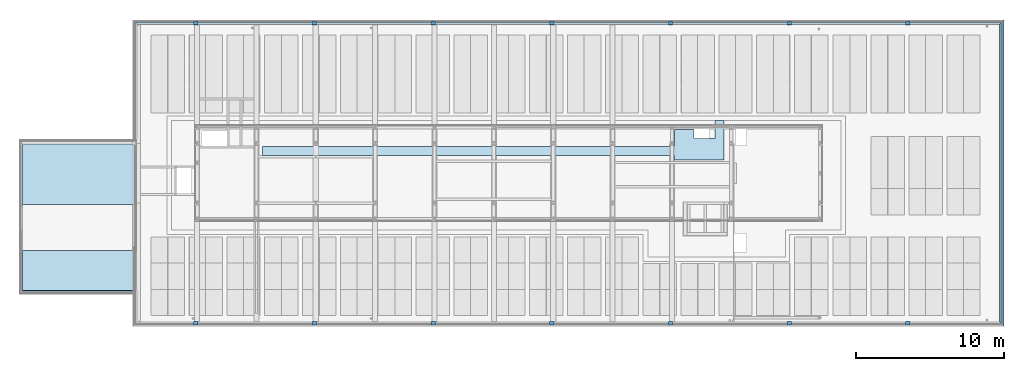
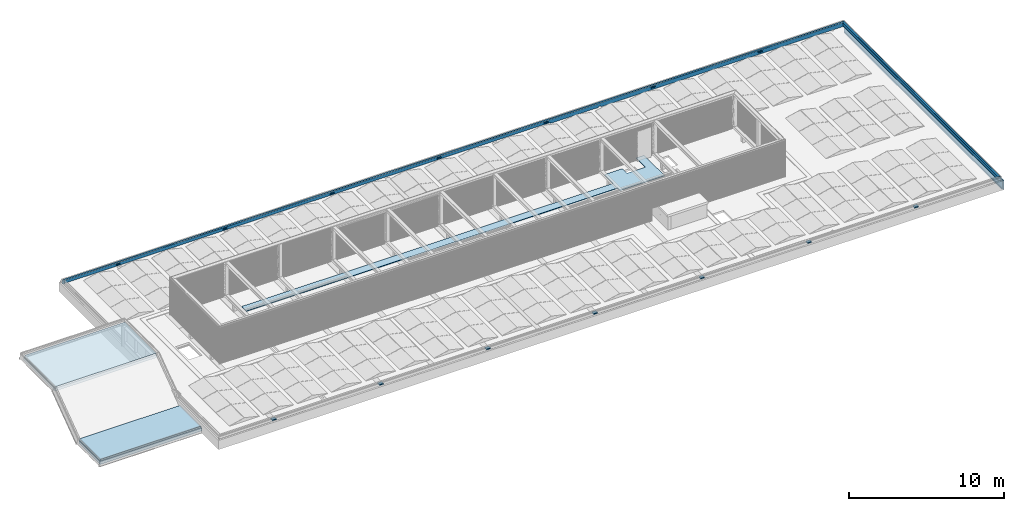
# One storey, part 14 of 63: 18 beams, 5 slabs.
"""IFC2X3 building model written with IfcOpenShell, lengths in millimetres."""

from ifc_helpers import new_model, entity, si_unit, converted_unit, derived_unit, money_unit, direction, frame, origin_with_axes, place, context, subcontext, project, spatial, faceted_brep, material, type_object, element, save


model = new_model("IFC2X3")

# Units and contexts
model_context = context("Model", 3, precision=0.01, world=origin_with_axes(), true_north=direction((0.0, 1.0)))
body_context = subcontext(model_context, "Body", "Model", "MODEL_VIEW")
ifc_project = project(units=[si_unit("LENGTHUNIT", "METRE", prefix="MILLI"), si_unit("AREAUNIT", "SQUARE_METRE"), si_unit("VOLUMEUNIT", "CUBIC_METRE"), converted_unit("PLANEANGLEUNIT", "DEGREE", entity("IfcPlaneAngleMeasure", 0.0174532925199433), si_unit("PLANEANGLEUNIT", "RADIAN"), dimensions=[0, 0, 0, 0, 0, 0, 0]), money_unit("EUR"), converted_unit("TIMEUNIT", "Year", entity("IfcTimeMeasure", 31557600.0), si_unit("TIMEUNIT", "SECOND"), dimensions=[0, 0, 1, 0, 0, 0, 0]), si_unit("MASSUNIT", "GRAM", prefix="KILO"), si_unit("THERMODYNAMICTEMPERATUREUNIT", "DEGREE_CELSIUS"), si_unit("LUMINOUSINTENSITYUNIT", "LUMEN"), si_unit("ENERGYUNIT", "JOULE", prefix="MEGA"), derived_unit("THERMALCONDUCTANCEUNIT", [(si_unit("POWERUNIT", "WATT"), 1), (si_unit("LENGTHUNIT", "METRE"), -1), (si_unit("THERMODYNAMICTEMPERATUREUNIT", "KELVIN"), -1)]), derived_unit("SPECIFICHEATCAPACITYUNIT", [(si_unit("ENERGYUNIT", "JOULE"), 1), (si_unit("MASSUNIT", "GRAM", prefix="KILO"), -1), (si_unit("THERMODYNAMICTEMPERATUREUNIT", "KELVIN"), -1)]), derived_unit("MASSDENSITYUNIT", [(si_unit("MASSUNIT", "GRAM", prefix="KILO"), 1), (si_unit("VOLUMEUNIT", "CUBIC_METRE"), -1)])], contexts=[model_context])

# Site, building, storey
site_placement = place(None, origin_with_axes())
site = spatial("IfcSite", under=ifc_project, at=site_placement, Name="<site naam>", CompositionType="ELEMENT")
building_placement = place(site_placement, origin_with_axes())
building = spatial("IfcBuilding", under=site, at=building_placement, Name="<Naam gebouw>", CompositionType="ELEMENT")
storey_placement = place(building_placement, frame((0.0, 0.0, 12770.0), z_axis=(0.0, 0.0, 1.0), x_axis=(1.0, 0.0, 0.0)))
storey = spatial("IfcBuildingStorey", under=building, at=storey_placement, Name="04 4e verdieping", CompositionType="ELEMENT", Elevation=12770.0)

# Beams
ifc_material_1 = material(Name="beton_gewapend_prefab")
beam_type_1 = type_object("IfcBeamType", Name="Betonbanden 160 x 760", PredefinedType="BEAM")
beam_1_placement = place(storey_placement, frame((70309.99999999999, 20265.00000000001, 50.00000000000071), z_axis=(0.0, 0.0, 1.0), x_axis=(-1.0, 0.0, 0.0)))
element("IfcBeam", 1, at=beam_1_placement, inside=storey, type_object=beam_type_1, material=ifc_material_1, Name="41_Balk_Betonbanden", ObjectType="BEAM", context=body_context, shape_type="Brep", body=[
    faceted_brep([(-59.99999757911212, -59.99999757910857, -759.9999375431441), (-59.99999757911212, -59.99999757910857, -30.00000230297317), (-59.99999757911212, 20589.99999719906, -30.00000230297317), (-59.99999757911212, 20589.99999719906, -759.9999375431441), (60.00000030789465, 60.00000030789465, 0.0), (60.00000030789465, 60.00000030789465, -30.00000230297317), (-29.99999527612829, -29.99999527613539, -759.9999375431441), (-29.99999527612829, -29.99999527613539, -730.0000145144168), (-4.298058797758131e-06, -4.298055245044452e-06, -730.0000145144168), (-4.298058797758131e-06, -4.298055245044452e-06, -759.9999375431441), (60.00000030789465, 60.00000030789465, -759.9999375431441), (60.00000030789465, 60.00000030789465, -660.0000280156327), (29.99999800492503, 29.99999800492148, -660.0000280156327), (29.99999800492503, 29.99999800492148, -690.0000385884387), (-4.298058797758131e-06, -4.298055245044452e-06, -690.0000385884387), (-4.298058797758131e-06, -4.298051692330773e-06, -100.0000001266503), (100.0000071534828, 100.0000071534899, -100.0000001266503), (100.0000071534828, 100.0000071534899, 0.0), (60.00000030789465, 20469.99999931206, -30.00000230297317), (-29.9999952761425, 20559.99999489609, -759.9999375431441), (60.00000030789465, 20469.99999931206, 0.0), (100.0000071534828, 20429.99999246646, 0.0), (100.0000071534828, 20429.99999246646, -100.0000001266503), (-4.298058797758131e-06, 20530.00000391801, -100.0000001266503), (-4.298058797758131e-06, 20530.00000391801, -690.0000385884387), (29.99999800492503, 20500.00000161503, -690.0000385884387), (29.99999800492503, 20500.00000161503, -660.0000280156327), (60.00000030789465, 20469.99999931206, -660.0000280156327), (60.00000030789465, 20469.99999931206, -759.9999375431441), (-4.298058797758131e-06, 20530.00000391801, -759.9999375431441), (-4.298058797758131e-06, 20530.00000391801, -730.0000145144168), (-29.9999952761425, 20559.99999489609, -730.0000145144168)], [[[0, 1, 2, 3]], [[4, 5, 1, 0, 6, 7, 8, 9, 10, 11, 12, 13, 14, 15, 16, 17]], [[1, 5, 18, 2]], [[19, 3, 2, 18, 20, 21, 22, 23, 24, 25, 26, 27, 28, 29, 30, 31]], [[6, 0, 3, 19]], [[5, 4, 20, 18]], [[7, 6, 19, 31]], [[8, 7, 31, 30]], [[9, 8, 30, 29]], [[10, 9, 29, 28]], [[11, 10, 28, 27]], [[12, 11, 27, 26]], [[13, 12, 26, 25]], [[14, 13, 25, 24]], [[15, 14, 24, 23]], [[16, 15, 23, 22]], [[17, 16, 22, 21]], [[4, 17, 21, 20]]]),
])
ifc_material_2 = material(Name="ALG - BUITENAFWERKING")
beam_type_2 = type_object("IfcBeamType", Name="ALG - BUITENAFWERKING 170 x 18", PredefinedType="BEAM")
beam_2_placement = place(storey_placement, frame((70078.19999757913, -33.24878372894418, 241.2498222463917), z_axis=(0.0, 0.0, 1.0), x_axis=(1.0, 0.0, 0.0)))
element("IfcBeam", 2, at=beam_2_placement, inside=storey, type_object=beam_type_2, material=ifc_material_2, Name="47_Balk_ALG", ObjectType="BEAM", context=body_context, shape_type="Brep", body=[
    faceted_brep([(170.0000000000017, 20236.44878130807, 18.00262955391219), (0.0, 20066.44878130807, 18.00262955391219), (0.0, 0.0, 18.00262955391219), (170.0000000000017, -169.9999999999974, 18.00262955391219), (170.0000000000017, 20236.44878130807, 0.0), (0.0, 20066.44878130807, 0.0), (0.0, 0.0, 0.0), (170.0000000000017, -169.9999999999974, 0.0)], [[[0, 1, 2, 3]], [[0, 4, 5, 1]], [[1, 5, 6, 2]], [[3, 2, 6, 7]], [[4, 0, 3, 7]], [[5, 4, 7, 6]]]),
])
beam_type_3 = type_object("IfcBeamType", Name="ALG - BUITENAFWERKING 120 x 329", PredefinedType="BEAM")
beam_3_placement = place(storey_placement, frame((70079.9999975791, -34.99999999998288, -70.00000000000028), z_axis=(0.0, 0.0, 1.0), x_axis=(1.0, 0.0, 0.0)))
element("IfcBeam", 3, at=beam_3_placement, inside=storey, type_object=beam_type_3, material=ifc_material_2, Name="47_Balk_ALG", ObjectType="BEAM", context=body_context, shape_type="Brep", body=[
    faceted_brep([(0.0, 35.00003585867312, 0.0), (23.49994284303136, 35.00003585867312, 0.0), (23.49994284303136, 20035.0, 0.0), (0.0, 20035.0, 0.0), (0.0, 20069.99999999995, 0.0), (120.0000000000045, 20189.99999999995, 0.0), (120.0000000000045, -119.9999999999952, 0.0), (0.0, 0.0, 0.0), (0.0, 35.00003585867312, 70.00000000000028), (23.49994284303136, 35.00003585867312, 70.00000000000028), (23.49994284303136, 20035.0, 70.00000000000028), (0.0, 20035.0, 70.00000000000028), (0.0, 0.0, 311.249822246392), (1.210437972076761e-06, 20069.99999878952, 311.249822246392), (120.0000012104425, 20189.99999878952, 311.249822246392), (120.0000000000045, -119.9999999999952, 311.249822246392)], [[[0, 1, 2, 3, 4, 5, 6, 7]], [[8, 9, 1, 0]], [[10, 2, 1, 9]], [[3, 2, 10, 11]], [[11, 8, 0, 7, 12, 13, 4, 3]], [[14, 5, 4, 13]], [[15, 6, 5, 14]], [[12, 7, 6, 15]], [[11, 10, 9, 8]], [[14, 13, 12, 15]]]),
    faceted_brep([(120.0000000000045, 20189.99999999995, 329.3), (120.0000000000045, -119.9999999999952, 329.3), (120.0000000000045, -119.9999999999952, 329.2524518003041), (120.0000012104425, 20189.99999878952, 329.2524518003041), (0.0, 20069.99999999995, 329.3), (0.0, 0.0, 329.3), (0.0, 0.0, 329.2524518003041), (1.210437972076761e-06, 20069.99999878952, 329.2524518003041)], [[[0, 1, 2, 3]], [[0, 4, 5, 1]], [[1, 5, 6, 2]], [[2, 6, 7, 3]], [[4, 0, 3, 7]], [[5, 4, 7, 6]]]),
])
beam_4_placement = place(storey_placement, frame((70079.9999975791, 20034.99999999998, -70.00000000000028), z_axis=(0.0, 0.0, 1.0), x_axis=(0.0, 1.0, 0.0)))
element("IfcBeam", 4, at=beam_4_placement, inside=storey, type_object=beam_type_3, material=ifc_material_2, Name="47_Balk_ALG", ObjectType="BEAM", context=body_context, shape_type="Brep", body=[
    faceted_brep([(120.000000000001, 21827.99999790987, 70.00000000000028), (120.000000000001, 58144.99999757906, 70.00000000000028), (120.000000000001, 58144.99999757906, 0.0), (120.000000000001, 58269.99999515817, 0.0), (120.000000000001, 58269.99999515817, 311.249822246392), (119.9999987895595, -120.0000012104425, 311.249822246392), (120.000000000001, -120.0000000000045, 0.0), (120.000000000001, 18080.00052321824, 0.0), (120.000000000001, 18080.00052321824, 70.00000000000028), (120.000000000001, 18254.99999757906, 70.00000000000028), (120.000000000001, 18254.99999757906, 0.0), (120.000000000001, 21827.99999790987, 0.0), (120.000000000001, 6329.999997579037, 229.9785226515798), (120.000000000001, 6329.999997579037, 149.9785226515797), (120.000000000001, 6029.99999757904, 149.9785226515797), (120.000000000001, 6029.99999757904, 229.9785226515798), (120.000000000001, 14329.99999757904, 149.9785226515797), (120.000000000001, 14029.99999757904, 149.9785226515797), (120.000000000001, 14029.99999757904, 229.9785226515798), (120.000000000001, 14329.99999757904, 229.9785226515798), (120.000000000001, 22029.99999757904, 149.9785226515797), (120.000000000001, 22029.99999757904, 229.9785226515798), (120.000000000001, 22329.99999757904, 229.9785226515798), (120.000000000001, 22329.99999757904, 149.9785226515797), (119.999998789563, 30029.99999757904, 229.9785226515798), (119.999998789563, 30329.99999757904, 229.9785226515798), (119.999998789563, 30329.99999757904, 149.9785226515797), (119.999998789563, 30029.99999757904, 149.9785226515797), (120.0000000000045, 38329.99999757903, 229.9785226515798), (120.0000000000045, 38329.99999757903, 149.9785226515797), (120.0000000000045, 38029.99999757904, 149.9785226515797), (120.0000000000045, 38029.99999757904, 229.9785226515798), (120.000000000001, 46329.99999757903, 149.9785226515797), (120.000000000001, 46029.99999757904, 149.9785226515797), (120.000000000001, 46029.99999757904, 229.9785226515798), (120.000000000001, 46329.99999757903, 229.9785226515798), (120.000000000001, 54029.99999757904, 149.9785226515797), (120.000000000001, 54029.99999757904, 229.9785226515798), (120.000000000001, 54329.99999757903, 229.9785226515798), (120.000000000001, 54329.99999757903, 149.9785226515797), (0.0, 58144.99999757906, 70.00000000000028), (0.0, 21827.99999790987, 70.00000000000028), (0.0, 58144.99999757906, 0.0), (0.0, 58149.99999515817, 0.0), (0.0, 58149.99999515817, 311.249822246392), (-1.21044152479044e-06, -1.210437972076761e-06, 311.249822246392), (0.0, 0.0, 0.0), (0.0, 18080.00052321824, 0.0), (0.0, 18080.00052321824, 70.00000000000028), (0.0, 18254.99999757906, 70.00000000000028), (0.0, 18254.99999757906, 0.0), (0.0, 21827.99999790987, 0.0), (0.0, 6329.999997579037, 149.9785226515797), (0.0, 6329.999997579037, 229.9785226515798), (0.0, 6029.99999757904, 149.9785226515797), (0.0, 6029.99999757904, 229.9785226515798), (0.0, 14329.99999757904, 149.9785226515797), (0.0, 14029.99999757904, 149.9785226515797), (0.0, 14029.99999757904, 229.9785226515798), (0.0, 14329.99999757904, 229.9785226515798), (0.0, 22029.99999757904, 149.9785226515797), (0.0, 22029.99999757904, 229.9785226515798), (0.0, 22329.99999757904, 229.9785226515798), (0.0, 22329.99999757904, 149.9785226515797), (-1.210437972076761e-06, 30029.99999757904, 229.9785226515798), (-1.210437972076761e-06, 30329.99999757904, 229.9785226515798), (-1.210437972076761e-06, 30329.99999757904, 149.9785226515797), (-1.210437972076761e-06, 30029.99999757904, 149.9785226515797), (0.0, 38329.99999757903, 149.9785226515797), (0.0, 38329.99999757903, 229.9785226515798), (0.0, 38029.99999757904, 149.9785226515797), (0.0, 38029.99999757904, 229.9785226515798), (0.0, 46329.99999757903, 149.9785226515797), (0.0, 46029.99999757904, 149.9785226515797), (0.0, 46029.99999757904, 229.9785226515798), (0.0, 46329.99999757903, 229.9785226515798), (0.0, 54029.99999757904, 149.9785226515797), (0.0, 54029.99999757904, 229.9785226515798), (0.0, 54329.99999757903, 229.9785226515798), (0.0, 54329.99999757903, 149.9785226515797)], [[[0, 1, 2, 3, 4, 5, 6, 7, 8, 9, 10, 11], [12, 13, 14, 15], [16, 17, 18, 19], [20, 21, 22, 23], [24, 25, 26, 27], [28, 29, 30, 31], [32, 33, 34, 35], [36, 37, 38, 39]], [[40, 1, 0, 41]], [[42, 2, 1, 40]], [[3, 2, 42, 43]], [[44, 4, 3, 43]], [[5, 4, 44, 45]], [[45, 46, 6, 5]], [[46, 47, 7, 6]], [[48, 8, 7, 47]], [[49, 9, 8, 48]], [[50, 10, 9, 49]], [[50, 51, 11, 10]], [[41, 0, 11, 51]], [[52, 13, 12, 53]], [[54, 14, 13, 52]], [[55, 15, 14, 54]], [[53, 12, 15, 55]], [[17, 16, 56, 57]], [[18, 17, 57, 58]], [[19, 18, 58, 59]], [[16, 19, 59, 56]], [[20, 60, 61, 21]], [[21, 61, 62, 22]], [[22, 62, 63, 23]], [[23, 63, 60, 20]], [[64, 65, 25, 24]], [[65, 66, 26, 25]], [[66, 67, 27, 26]], [[67, 64, 24, 27]], [[68, 29, 28, 69]], [[70, 30, 29, 68]], [[71, 31, 30, 70]], [[69, 28, 31, 71]], [[33, 32, 72, 73]], [[34, 33, 73, 74]], [[35, 34, 74, 75]], [[32, 35, 75, 72]], [[36, 76, 77, 37]], [[37, 77, 78, 38]], [[38, 78, 79, 39]], [[39, 79, 76, 36]], [[40, 41, 51, 50, 49, 48, 47, 46, 45, 44, 43, 42], [54, 52, 53, 55], [56, 59, 58, 57], [62, 61, 60, 63], [64, 67, 66, 65], [70, 68, 69, 71], [72, 75, 74, 73], [78, 77, 76, 79]]]),
    faceted_brep([(119.9999987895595, -120.0000012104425, 329.2524518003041), (120.000000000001, -120.0000000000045, 329.3), (0.0, 0.0, 329.3), (-1.21044152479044e-06, -1.210437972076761e-06, 329.2524518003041), (120.000000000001, 58269.99999515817, 329.2524518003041), (120.000000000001, 58269.99999515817, 329.3), (0.0, 58149.99999515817, 329.3), (0.0, 58149.99999515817, 329.2524518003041)], [[[0, 1, 2, 3]], [[4, 5, 1, 0]], [[1, 5, 6, 2]], [[2, 6, 7, 3]], [[3, 7, 4, 0]], [[4, 7, 6, 5]]]),
])
beam_type_4 = type_object("IfcBeamType", Name="ALG - BUITENAFWERKING 235 x 80", PredefinedType="BEAM")
beam_5_placement = place(storey_placement, frame((15750.00000000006, 0.0, 79.97852265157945), z_axis=(0.0, 0.0, 1.0), x_axis=(0.0, -1.0, 0.0)))
element("IfcBeam", 5, at=beam_5_placement, inside=storey, type_object=beam_type_4, material=ifc_material_2, Name="47_Balk_ALG", ObjectType="BEAM", context=body_context, shape_type="Brep", body=[
    faceted_brep([(235.0, 299.9999999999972, 0.0), (214.9941101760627, 299.9999999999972, 0.0), (214.9941101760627, 299.9999999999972, 80.00000000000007), (235.0, 299.9999999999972, 80.00000000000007), (235.0, 0.0, 0.0), (214.9941101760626, 0.0, 0.0), (214.9941101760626, 0.0, 80.00000000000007), (235.0, 0.0, 80.00000000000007)], [[[0, 1, 2, 3]], [[4, 5, 1, 0]], [[5, 6, 2, 1]], [[3, 2, 6, 7]], [[7, 4, 0, 3]], [[7, 6, 5, 4]]]),
    faceted_brep([(0.0, 0.0, 80.00000000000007), (213.802087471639, 0.0, 80.00000000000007), (213.8020874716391, 299.9999999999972, 80.00000000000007), (0.0, 299.9999999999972, 80.00000000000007), (0.0, 0.0, 0.0), (213.802087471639, 0.0, 0.0), (213.8020874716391, 299.9999999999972, 0.0), (0.0, 299.9999999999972, 0.0)], [[[0, 1, 2, 3]], [[4, 5, 1, 0]], [[5, 6, 2, 1]], [[3, 2, 6, 7]], [[4, 0, 3, 7]], [[7, 6, 5, 4]]]),
])
beam_6_placement = place(storey_placement, frame((23750.00000000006, 0.0, 79.97852265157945), z_axis=(0.0, 0.0, 1.0), x_axis=(0.0, -1.0, 0.0)))
element("IfcBeam", 6, at=beam_6_placement, inside=storey, type_object=beam_type_4, material=ifc_material_2, Name="47_Balk_ALG", ObjectType="BEAM", context=body_context, shape_type="Brep", body=[
    faceted_brep([(235.0, 299.9999999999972, 0.0), (214.9941101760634, 299.9999999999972, 0.0), (214.9941101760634, 299.9999999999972, 80.00000000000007), (235.0, 299.9999999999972, 80.00000000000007), (235.0, 0.0, 0.0), (214.9941101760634, 0.0, 0.0), (214.9941101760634, 0.0, 80.00000000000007), (235.0, 0.0, 80.00000000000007)], [[[0, 1, 2, 3]], [[4, 5, 1, 0]], [[5, 6, 2, 1]], [[3, 2, 6, 7]], [[7, 4, 0, 3]], [[7, 6, 5, 4]]]),
    faceted_brep([(0.0, 0.0, 80.00000000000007), (213.8020874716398, 0.0, 80.00000000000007), (213.8020874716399, 299.9999999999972, 80.00000000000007), (0.0, 299.9999999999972, 80.00000000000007), (0.0, 0.0, 0.0), (213.8020874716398, 0.0, 0.0), (213.8020874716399, 299.9999999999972, 0.0), (0.0, 299.9999999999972, 0.0)], [[[0, 1, 2, 3]], [[4, 5, 1, 0]], [[5, 6, 2, 1]], [[3, 2, 6, 7]], [[4, 0, 3, 7]], [[7, 6, 5, 4]]]),
])
beam_7_placement = place(storey_placement, frame((31750.00000000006, 0.0, 79.97852265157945), z_axis=(0.0, 0.0, 1.0), x_axis=(0.0, -1.0, 0.0)))
element("IfcBeam", 7, at=beam_7_placement, inside=storey, type_object=beam_type_4, material=ifc_material_2, Name="47_Balk_ALG", ObjectType="BEAM", context=body_context, shape_type="Brep", body=[
    faceted_brep([(235.0, 299.9999999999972, 0.0), (214.9941101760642, 299.9999999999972, 0.0), (214.9941101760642, 299.9999999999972, 80.00000000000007), (235.0, 299.9999999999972, 80.00000000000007), (235.0, 0.0, 0.0), (214.9941101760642, 0.0, 0.0), (214.9941101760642, 0.0, 80.00000000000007), (235.0, 0.0, 80.00000000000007)], [[[0, 1, 2, 3]], [[4, 5, 1, 0]], [[5, 6, 2, 1]], [[3, 2, 6, 7]], [[7, 4, 0, 3]], [[7, 6, 5, 4]]]),
    faceted_brep([(0.0, 0.0, 80.00000000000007), (213.8020874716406, 0.0, 80.00000000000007), (213.8020874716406, 299.9999999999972, 80.00000000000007), (0.0, 299.9999999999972, 80.00000000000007), (0.0, 0.0, 0.0), (213.8020874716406, 0.0, 0.0), (213.8020874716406, 299.9999999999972, 0.0), (0.0, 299.9999999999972, 0.0)], [[[0, 1, 2, 3]], [[4, 5, 1, 0]], [[5, 6, 2, 1]], [[3, 2, 6, 7]], [[4, 0, 3, 7]], [[7, 6, 5, 4]]]),
])
beam_8_placement = place(storey_placement, frame((39750.00000000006, 0.0, 79.97852265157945), z_axis=(0.0, 0.0, 1.0), x_axis=(0.0, -1.0, 0.0)))
element("IfcBeam", 8, at=beam_8_placement, inside=storey, type_object=beam_type_4, material=ifc_material_2, Name="47_Balk_ALG", ObjectType="BEAM", context=body_context, shape_type="Brep", body=[
    faceted_brep([(235.0, 299.9999999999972, 0.0), (214.994110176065, 299.9999999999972, 0.0), (214.994110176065, 299.9999999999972, 80.00000000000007), (235.0, 299.9999999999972, 80.00000000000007), (235.0, 0.0, 0.0), (214.994110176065, 0.0, 0.0), (214.994110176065, 0.0, 80.00000000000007), (235.0, 0.0, 80.00000000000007)], [[[0, 1, 2, 3]], [[4, 5, 1, 0]], [[5, 6, 2, 1]], [[3, 2, 6, 7]], [[7, 4, 0, 3]], [[7, 6, 5, 4]]]),
    faceted_brep([(0.0, 0.0, 80.00000000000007), (213.8020874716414, 0.0, 80.00000000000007), (213.8020874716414, 299.9999999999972, 80.00000000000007), (0.0, 299.9999999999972, 80.00000000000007), (0.0, 0.0, 0.0), (213.8020874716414, 0.0, 0.0), (213.8020874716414, 299.9999999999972, 0.0), (0.0, 299.9999999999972, 0.0)], [[[0, 1, 2, 3]], [[4, 5, 1, 0]], [[5, 6, 2, 1]], [[3, 2, 6, 7]], [[4, 0, 3, 7]], [[7, 6, 5, 4]]]),
])
beam_9_placement = place(storey_placement, frame((47750.00000000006, 0.0, 79.97852265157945), z_axis=(0.0, 0.0, 1.0), x_axis=(0.0, -1.0, 0.0)))
element("IfcBeam", 9, at=beam_9_placement, inside=storey, type_object=beam_type_4, material=ifc_material_2, Name="47_Balk_ALG", ObjectType="BEAM", context=body_context, shape_type="Brep", body=[
    faceted_brep([(235.0, 299.9999999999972, 0.0), (214.9941101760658, 299.9999999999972, 0.0), (214.9941101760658, 299.9999999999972, 80.00000000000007), (235.0, 299.9999999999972, 80.00000000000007), (235.0, 0.0, 0.0), (214.9941101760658, 0.0, 0.0), (214.9941101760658, 0.0, 80.00000000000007), (235.0, 0.0, 80.00000000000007)], [[[0, 1, 2, 3]], [[4, 5, 1, 0]], [[5, 6, 2, 1]], [[3, 2, 6, 7]], [[7, 4, 0, 3]], [[7, 6, 5, 4]]]),
    faceted_brep([(0.0, 0.0, 80.00000000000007), (213.8020874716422, 0.0, 80.00000000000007), (213.8020874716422, 299.9999999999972, 80.00000000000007), (0.0, 299.9999999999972, 80.00000000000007), (0.0, 0.0, 0.0), (213.8020874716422, 0.0, 0.0), (213.8020874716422, 299.9999999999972, 0.0), (0.0, 299.9999999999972, 0.0)], [[[0, 1, 2, 3]], [[4, 5, 1, 0]], [[5, 6, 2, 1]], [[3, 2, 6, 7]], [[4, 0, 3, 7]], [[7, 6, 5, 4]]]),
])
beam_10_placement = place(storey_placement, frame((55750.00000000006, 0.0, 79.97852265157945), z_axis=(0.0, 0.0, 1.0), x_axis=(0.0, -1.0, 0.0)))
element("IfcBeam", 10, at=beam_10_placement, inside=storey, type_object=beam_type_4, material=ifc_material_2, Name="47_Balk_ALG", ObjectType="BEAM", context=body_context, shape_type="Brep", body=[
    faceted_brep([(235.0, 299.9999999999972, 0.0), (214.9941101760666, 299.9999999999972, 0.0), (214.9941101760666, 299.9999999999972, 80.00000000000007), (235.0, 299.9999999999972, 80.00000000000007), (235.0, 0.0, 0.0), (214.9941101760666, 0.0, 0.0), (214.9941101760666, 0.0, 80.00000000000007), (235.0, 0.0, 80.00000000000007)], [[[0, 1, 2, 3]], [[4, 5, 1, 0]], [[5, 6, 2, 1]], [[3, 2, 6, 7]], [[7, 4, 0, 3]], [[7, 6, 5, 4]]]),
    faceted_brep([(0.0, 0.0, 80.00000000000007), (213.802087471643, 0.0, 80.00000000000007), (213.802087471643, 299.9999999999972, 80.00000000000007), (0.0, 299.9999999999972, 80.00000000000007), (0.0, 0.0, 0.0), (213.802087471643, 0.0, 0.0), (213.802087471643, 299.9999999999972, 0.0), (0.0, 299.9999999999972, 0.0)], [[[0, 1, 2, 3]], [[4, 5, 1, 0]], [[5, 6, 2, 1]], [[3, 2, 6, 7]], [[4, 0, 3, 7]], [[7, 6, 5, 4]]]),
])
beam_11_placement = place(storey_placement, frame((63750.00000000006, 0.0, 79.97852265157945), z_axis=(0.0, 0.0, 1.0), x_axis=(0.0, -1.0, 0.0)))
element("IfcBeam", 11, at=beam_11_placement, inside=storey, type_object=beam_type_4, material=ifc_material_2, Name="47_Balk_ALG", ObjectType="BEAM", context=body_context, shape_type="Brep", body=[
    faceted_brep([(235.0, 299.9999999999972, 0.0), (214.9941101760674, 299.9999999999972, 0.0), (214.9941101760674, 299.9999999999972, 80.00000000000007), (235.0, 299.9999999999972, 80.00000000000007), (235.0, 0.0, 0.0), (214.9941101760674, 0.0, 0.0), (214.9941101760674, 0.0, 80.00000000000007), (235.0, 0.0, 80.00000000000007)], [[[0, 1, 2, 3]], [[4, 5, 1, 0]], [[5, 6, 2, 1]], [[3, 2, 6, 7]], [[7, 4, 0, 3]], [[7, 6, 5, 4]]]),
    faceted_brep([(0.0, 0.0, 80.00000000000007), (213.8020874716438, 0.0, 80.00000000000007), (213.8020874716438, 299.9999999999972, 80.00000000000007), (0.0, 299.9999999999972, 80.00000000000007), (0.0, 0.0, 0.0), (213.8020874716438, 0.0, 0.0), (213.8020874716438, 299.9999999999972, 0.0), (0.0, 299.9999999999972, 0.0)], [[[0, 1, 2, 3]], [[4, 5, 1, 0]], [[5, 6, 2, 1]], [[3, 2, 6, 7]], [[4, 0, 3, 7]], [[7, 6, 5, 4]]]),
])
for number, where, z_axis, x_axis, name in (
    (12, (23750.00000000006, 19994.45385009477, 79.97852265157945), (0.0, 0.0, 1.0), (0.0, -1.0, 0.0), "47_Balk_ALG"),
    (13, (15750.00000000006, 19994.45385009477, 79.97852265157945), (0.0, 0.0, 1.0), (0.0, -1.0, 0.0), "47_Balk_ALG"),
):
    element("IfcBeam", number, at=place(storey_placement, frame(where, z_axis=z_axis, x_axis=x_axis)), inside=storey, type_object=beam_type_4, material=ifc_material_2, Name=name, ObjectType="BEAM", context=body_context, shape_type="Brep", body=[
        faceted_brep([(0.0, 299.9999999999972, 0.0), (-219.3482373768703, 299.9999999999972, 0.0), (-219.3482373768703, 299.9999999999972, 80.00000000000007), (0.0, 299.9999999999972, 80.00000000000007), (0.0, 0.0, 0.0), (-219.3482373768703, 0.0, 0.0), (-219.3482373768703, 0.0, 80.00000000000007), (0.0, 0.0, 80.00000000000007)], [[[0, 1, 2, 3]], [[4, 5, 1, 0]], [[5, 6, 2, 1]], [[3, 2, 6, 7]], [[7, 4, 0, 3]], [[7, 6, 5, 4]]]),
        faceted_brep([(-234.9999999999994, 0.0, 80.00000000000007), (-220.5402600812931, 0.0, 80.00000000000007), (-220.5402600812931, 299.9999999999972, 80.00000000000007), (-234.9999999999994, 299.9999999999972, 80.00000000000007), (-234.9999999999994, 0.0, 0.0), (-220.5402600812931, 0.0, 0.0), (-220.5402600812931, 299.9999999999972, 0.0), (-234.9999999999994, 299.9999999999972, 0.0)], [[[0, 1, 2, 3]], [[4, 5, 1, 0]], [[5, 6, 2, 1]], [[3, 2, 6, 7]], [[4, 0, 3, 7]], [[7, 6, 5, 4]]]),
    ])
for number, where, z_axis, x_axis, name in (
    (14, (47750.00000000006, 19994.45385009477, 79.97852265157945), (0.0, 0.0, 1.0), (0.0, -1.0, 0.0), "47_Balk_ALG"),
    (15, (55750.00000000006, 19994.45385009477, 79.97852265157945), (0.0, 0.0, 1.0), (0.0, -1.0, 0.0), "47_Balk_ALG"),
    (16, (63750.00000000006, 19994.45385009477, 79.97852265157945), (0.0, 0.0, 1.0), (0.0, -1.0, 0.0), "47_Balk_ALG"),
):
    element("IfcBeam", number, at=place(storey_placement, frame(where, z_axis=z_axis, x_axis=x_axis)), inside=storey, type_object=beam_type_4, material=ifc_material_2, Name=name, ObjectType="BEAM", context=body_context, shape_type="Brep", body=[
        faceted_brep([(0.0, 299.9999999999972, 0.0), (-219.3482373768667, 299.9999999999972, 0.0), (-219.3482373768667, 299.9999999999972, 80.00000000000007), (0.0, 299.9999999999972, 80.00000000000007), (0.0, 0.0, 0.0), (-219.3482373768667, 0.0, 0.0), (-219.3482373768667, 0.0, 80.00000000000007), (0.0, 0.0, 80.00000000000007)], [[[0, 1, 2, 3]], [[4, 5, 1, 0]], [[5, 6, 2, 1]], [[3, 2, 6, 7]], [[7, 4, 0, 3]], [[7, 6, 5, 4]]]),
        faceted_brep([(-234.9999999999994, 0.0, 80.00000000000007), (-220.5402600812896, 0.0, 80.00000000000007), (-220.5402600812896, 299.9999999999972, 80.00000000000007), (-234.9999999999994, 299.9999999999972, 80.00000000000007), (-234.9999999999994, 0.0, 0.0), (-220.5402600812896, 0.0, 0.0), (-220.5402600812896, 299.9999999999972, 0.0), (-234.9999999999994, 299.9999999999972, 0.0)], [[[0, 1, 2, 3]], [[4, 5, 1, 0]], [[5, 6, 2, 1]], [[3, 2, 6, 7]], [[4, 0, 3, 7]], [[7, 6, 5, 4]]]),
    ])
for number, where, z_axis, x_axis, name in (
    (17, (39750.00000000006, 19994.45385009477, 79.97852265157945), (0.0, 0.0, 1.0), (0.0, -1.0, 0.0), "47_Balk_ALG"),
    (18, (31750.00000000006, 19994.45385009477, 79.97852265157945), (0.0, 0.0, 1.0), (0.0, -1.0, 0.0), "47_Balk_ALG"),
):
    element("IfcBeam", number, at=place(storey_placement, frame(where, z_axis=z_axis, x_axis=x_axis)), inside=storey, type_object=beam_type_4, material=ifc_material_2, Name=name, ObjectType="BEAM", context=body_context, shape_type="Brep", body=[
        faceted_brep([(0.0, 299.9999999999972, 0.0), (-219.3482373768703, 299.9999999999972, 0.0), (-219.3482373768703, 299.9999999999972, 80.00000000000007), (0.0, 299.9999999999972, 80.00000000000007), (0.0, 0.0, 0.0), (-219.3482373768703, 0.0, 0.0), (-219.3482373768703, 0.0, 80.00000000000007), (0.0, 0.0, 80.00000000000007)], [[[0, 1, 2, 3]], [[4, 5, 1, 0]], [[5, 6, 2, 1]], [[3, 2, 6, 7]], [[7, 4, 0, 3]], [[7, 6, 5, 4]]]),
        faceted_brep([(-234.9999999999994, 0.0, 80.00000000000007), (-220.5402600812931, 0.0, 80.00000000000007), (-220.5402600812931, 299.9999999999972, 80.00000000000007), (-234.9999999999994, 299.9999999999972, 80.00000000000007), (-234.9999999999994, 0.0, 0.0), (-220.5402600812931, 0.0, 0.0), (-220.5402600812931, 299.9999999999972, 0.0), (-234.9999999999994, 299.9999999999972, 0.0)], [[[0, 1, 2, 3]], [[4, 5, 1, 0]], [[5, 6, 2, 1]], [[3, 2, 6, 7]], [[4, 0, 3, 7]], [[7, 6, 5, 4]]]),
    ])

# Slabs
ifc_material_3 = material(Name="ALG - ALGEMEEN")
slab_type_1 = type_object("IfcSlabType", Name="ALG - ALGEMEEN 45", PredefinedType="NOTDEFINED")
slab_1_placement = place(storey_placement, frame((44845.96632665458, 11802.60000000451, 160.026569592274), z_axis=(0.0, 0.0, 1.0), x_axis=(1.0, 0.0, 0.0)))
element("IfcSlab", 19, at=slab_1_placement, inside=storey, type_object=slab_type_1, material=ifc_material_3, Name="47_Vloer_ALG", PredefinedType="NOTDEFINED", context=body_context, shape_type="Brep", body=[
    faceted_brep([(-24435.96632665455, 0.0, 44.99999999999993), (-24435.96632665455, 0.0, 0.0), (-24435.96632665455, -599.9720192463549, 0.0), (-24435.96632665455, -599.9720192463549, 44.99999999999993), (3329.033673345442, 0.0, 44.99999999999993), (3329.033673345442, 0.0, 0.0), (3329.033673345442, 1141.491682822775, 0.0), (4654.033752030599, 1141.491682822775, 0.0), (4654.033752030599, 541.4916828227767, 0.0), (6044.046114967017, 541.4916828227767, 0.0), (6044.046114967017, 1759.936376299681, 0.0), (6644.033752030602, 1759.936376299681, 0.0), (6644.033752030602, -899.9720192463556, 0.0), (3329.033673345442, -899.9720192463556, 0.0), (3329.033673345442, -599.9720192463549, 0.0), (3329.033673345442, -599.9720192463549, 44.99999999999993), (3329.033673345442, -899.9720192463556, 44.99999999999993), (6644.033752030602, -899.9720192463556, 44.99999999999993), (6644.033752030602, 1759.936376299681, 44.99999999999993), (6044.046114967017, 1759.936376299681, 44.99999999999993), (6044.046114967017, 541.4916828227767, 44.99999999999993), (4654.033752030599, 541.4916828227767, 44.99999999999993), (4654.033752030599, 1141.491682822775, 44.99999999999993), (3329.033673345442, 1141.491682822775, 44.99999999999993)], [[[0, 1, 2, 3]], [[4, 5, 1, 0]], [[1, 5, 6, 7, 8, 9, 10, 11, 12, 13, 14, 2]], [[3, 2, 14, 15]], [[4, 0, 3, 15, 16, 17, 18, 19, 20, 21, 22, 23]], [[23, 6, 5, 4]], [[22, 7, 6, 23]], [[21, 8, 7, 22]], [[20, 9, 8, 21]], [[19, 10, 9, 20]], [[18, 11, 10, 19]], [[17, 12, 11, 18]], [[16, 13, 12, 17]], [[15, 14, 13, 16]]]),
])
ifc_material_4 = material(Name="beton_gewapend_prefab vloer")
slab_type_2 = type_object("IfcSlabType", Name="beton_gewapend_prefab vloer 220", PredefinedType="NOTDEFINED")
slab_2_placement = place(storey_placement, frame((4196.544468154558, 7900.0, 1539.999999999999), z_axis=(0.0, 0.0, 1.0), x_axis=(1.0, 0.0, 0.0)))
element("IfcSlab", 20, at=slab_2_placement, inside=storey, type_object=slab_type_2, material=ifc_material_4, Name="27_Vloer_beton_gewapend_prefab", PredefinedType="NOTDEFINED", context=body_context, shape_type="Brep", body=[
    faceted_brep([(0.0, 0.0, 220.0000000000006), (0.0, 0.0, 0.0), (7606.911063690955, 0.0, 0.0), (7606.911063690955, 0.0, 220.0000000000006), (0.0, 4050.000000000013, 220.0000000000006), (0.0, 4050.000000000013, 0.0), (7606.911063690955, 4050.000000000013, 0.0), (7606.911063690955, 4050.000000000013, 220.0000000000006)], [[[0, 1, 2, 3]], [[4, 5, 1, 0]], [[2, 1, 5, 6]], [[3, 2, 6, 7]], [[4, 0, 3, 7]], [[7, 6, 5, 4]]]),
])
slab_3_placement = place(storey_placement, frame((4196.544468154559, 2050.398018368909, -700.0012514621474), z_axis=(0.0, 0.0, 1.0), x_axis=(1.0, 0.0, 0.0)))
element("IfcSlab", 21, at=slab_3_placement, inside=storey, type_object=slab_type_2, material=ifc_material_4, Name="27_Vloer_beton_gewapend_prefab", PredefinedType="NOTDEFINED", context=body_context, shape_type="Brep", body=[
    faceted_brep([(0.0, 0.0, 220.0000000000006), (0.0, 0.0, 0.0), (7606.911063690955, 0.0, 0.0), (7606.911063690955, 0.0, 220.0000000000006), (0.0, 2749.601981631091, 220.0000000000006), (0.0, 2749.601981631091, 0.0), (7606.911063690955, 2749.601981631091, 0.0), (7606.911063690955, 2749.601981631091, 220.0000000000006)], [[[0, 1, 2, 3]], [[4, 5, 1, 0]], [[2, 1, 5, 6]], [[3, 2, 6, 7]], [[4, 0, 3, 7]], [[7, 6, 5, 4]]]),
])
ifc_material_5 = material(Name="ALG - ISOLATIE")
slab_type_3 = type_object("IfcSlabType", Name="ALG - ISOLATIE 140", PredefinedType="NOTDEFINED")
slab_4_placement = place(storey_placement, frame((4246.045523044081, 7900.0, 1760.0), z_axis=(0.0, 0.0, 1.0), x_axis=(1.0, 0.0, 0.0)))
element("IfcSlab", 22, at=slab_4_placement, inside=storey, type_object=slab_type_3, material=ifc_material_5, Name="27_Vloer_ALG", PredefinedType="NOTDEFINED", context=body_context, shape_type="Brep", body=[
    faceted_brep([(0.0, 0.0, 140.0000000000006), (0.0, 0.0, 0.0), (7507.954479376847, 0.0, 0.0), (7507.954479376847, 0.0, 140.0000000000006), (0.0, 4050.000000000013, 140.0000000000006), (0.0, 4050.000000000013, 0.0), (7507.954479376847, 4050.000000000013, 0.0), (7507.954479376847, 4050.000000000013, 140.0000000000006)], [[[0, 1, 2, 3]], [[4, 5, 1, 0]], [[2, 1, 5, 6]], [[3, 2, 6, 7]], [[4, 0, 3, 7]], [[7, 6, 5, 4]]]),
])
slab_5_placement = place(storey_placement, frame((4256.145525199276, 2099.911677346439, -480.00111322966), z_axis=(0.0, 0.0, 1.0), x_axis=(1.0, 0.0, 0.0)))
element("IfcSlab", 23, at=slab_5_placement, inside=storey, type_object=slab_type_3, material=ifc_material_5, Name="27_Vloer_ALG", PredefinedType="NOTDEFINED", context=body_context, shape_type="Brep", body=[
    faceted_brep([(0.0, 0.0, 140.0000000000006), (0.0, 0.0, 0.0), (7497.854477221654, 0.0, 0.0), (7497.854477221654, 0.0, 140.0000000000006), (0.0, 2700.088322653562, 140.0000000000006), (0.0, 2700.088322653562, 0.0), (7497.854477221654, 2700.088322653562, 0.0), (7497.854477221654, 2700.088322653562, 140.0000000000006)], [[[0, 1, 2, 3]], [[4, 5, 1, 0]], [[2, 1, 5, 6]], [[3, 2, 6, 7]], [[4, 0, 3, 7]], [[7, 6, 5, 4]]]),
])

save(model, "model.ifc")
